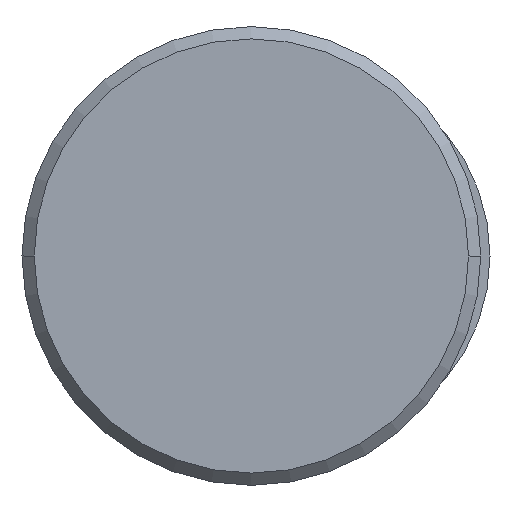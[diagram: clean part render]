
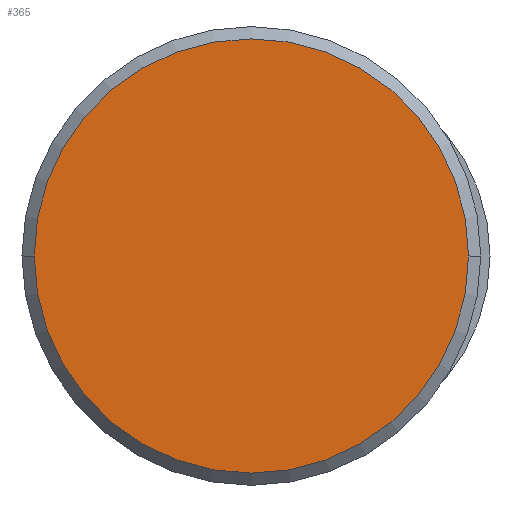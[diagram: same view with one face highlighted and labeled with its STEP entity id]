
A CAD part, left-side view. The second image highlights one B-rep face of the part: STEP entity #365.
In plain terms, the highlighted planar face has unit normal (-1, 0, 0).
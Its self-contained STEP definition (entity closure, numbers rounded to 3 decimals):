
#247=CARTESIAN_POINT('Vertex',(-14.,-35.5,0.)) ;
#250=CARTESIAN_POINT('Axis2P3D Location',(-14.,0.,0.)) ;
#254=CARTESIAN_POINT('Vertex',(-14.,35.5,0.)) ;
#274=CARTESIAN_POINT('Axis2P3D Location',(-14.,0.,0.)) ;
#356=CARTESIAN_POINT('Axis2P3D Location',(-14.,-17.75,0.)) ;
#251=DIRECTION('Axis2P3D Direction',(1.,0.,0.)) ;
#275=DIRECTION('Axis2P3D Direction',(1.,0.,0.)) ;
#357=DIRECTION('Axis2P3D Direction',(-1.,0.,0.)) ;
#358=DIRECTION('Axis2P3D XDirection',(0.,-1.,0.)) ;
#252=AXIS2_PLACEMENT_3D('Circle Axis2P3D',#250,#251,$) ;
#276=AXIS2_PLACEMENT_3D('Circle Axis2P3D',#274,#275,$) ;
#359=AXIS2_PLACEMENT_3D('Plane Axis2P3D',#356,#357,#358) ;
#362=ORIENTED_EDGE('',*,*,#278,.F.) ;
#363=ORIENTED_EDGE('',*,*,#256,.F.) ;
#365=ADVANCED_FACE('NONE',(#364),#360,.T.) ;
#253=CIRCLE('generated circle',#252,35.5) ;
#277=CIRCLE('generated circle',#276,35.5) ;
#256=EDGE_CURVE('',#248,#255,#253,.T.) ;
#278=EDGE_CURVE('',#255,#248,#277,.T.) ;
#361=EDGE_LOOP('',(#362,#363)) ;
#364=FACE_OUTER_BOUND('',#361,.T.) ;
#360=PLANE('Plane',#359) ;
#248=VERTEX_POINT('',#247) ;
#255=VERTEX_POINT('',#254) ;
